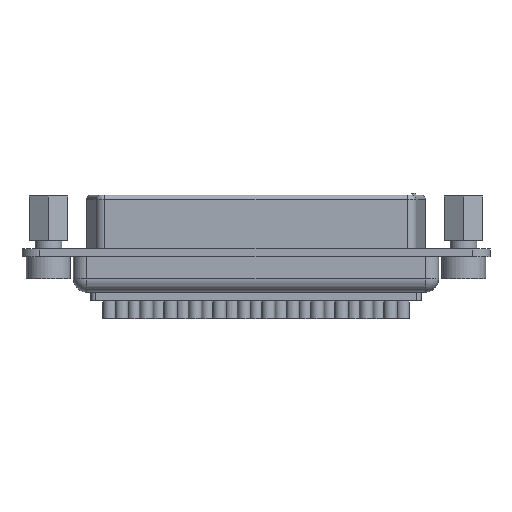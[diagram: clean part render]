
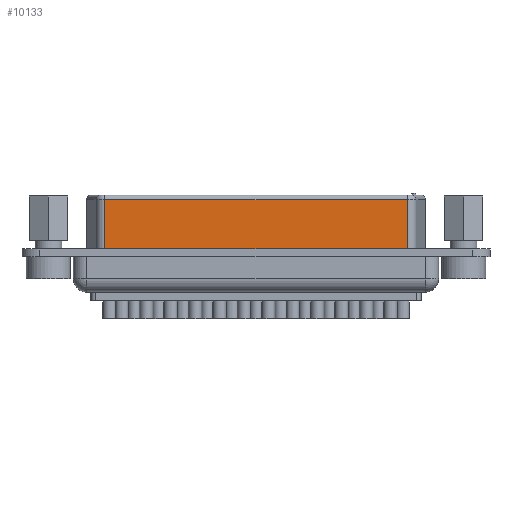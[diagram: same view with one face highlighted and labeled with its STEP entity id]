
A CAD part, front view. The second image highlights one B-rep face of the part: STEP entity #10133.
In plain terms, the highlighted planar face has unit normal (0, -1, 0).
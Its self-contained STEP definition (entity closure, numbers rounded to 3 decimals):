
#6219 = CARTESIAN_POINT ( 'NONE',  ( -17.142, -4., 0. ) ) ;
#6220 = DIRECTION ( 'NONE',  ( 1., 0., 0. ) ) ;
#6221 = VECTOR ( 'NONE', #6220, 1000. ) ;
#6222 = CARTESIAN_POINT ( 'NONE',  ( -17.142, -4., 0. ) ) ;
#6223 = LINE ( 'NONE', #6222, #6221 ) ;
#6224 = CARTESIAN_POINT ( 'NONE',  ( 17.142, -4., 0. ) ) ;
#6634 = CARTESIAN_POINT ( 'NONE',  ( 17.142, -4., 5.6 ) ) ;
#6635 = DIRECTION ( 'NONE',  ( 0., 0., -1. ) ) ;
#6636 = VECTOR ( 'NONE', #6635, 1000. ) ;
#6637 = CARTESIAN_POINT ( 'NONE',  ( 17.142, -4., 6.1 ) ) ;
#6638 = LINE ( 'NONE', #6637, #6636 ) ;
#6639 = DIRECTION ( 'NONE',  ( 0., 0., 1. ) ) ;
#6640 = DIRECTION ( 'NONE',  ( 0., 1., 0. ) ) ;
#6641 = CARTESIAN_POINT ( 'NONE',  ( -17.142, -4., 6.1 ) ) ;
#6642 = AXIS2_PLACEMENT_3D ( 'NONE', #6641, #6640, #6639 ) ;
#6643 = PLANE ( 'NONE',  #6642 ) ;
#6658 = FACE_OUTER_BOUND ( 'NONE', #10134, .T. ) ;
#6683 = DIRECTION ( 'NONE',  ( -1., 0., 0. ) ) ;
#6684 = VECTOR ( 'NONE', #6683, 1000. ) ;
#6685 = CARTESIAN_POINT ( 'NONE',  ( -17.142, -4., 5.6 ) ) ;
#6686 = LINE ( 'NONE', #6685, #6684 ) ;
#6739 = CARTESIAN_POINT ( 'NONE',  ( -17.142, -4., 5.6 ) ) ;
#6740 = DIRECTION ( 'NONE',  ( 0., 0., -1. ) ) ;
#6741 = VECTOR ( 'NONE', #6740, 1000. ) ;
#6742 = CARTESIAN_POINT ( 'NONE',  ( -17.142, -4., 6.1 ) ) ;
#6743 = LINE ( 'NONE', #6742, #6741 ) ;
#10003 = VERTEX_POINT ( 'NONE', #6224 ) ;
#10005 = EDGE_CURVE ( 'NONE', #10006, #10003, #6223, .T. ) ;
#10006 = VERTEX_POINT ( 'NONE', #6219 ) ;
#10133 = ADVANCED_FACE ( 'NONE', ( #6658 ), #6643, .F. ) ;
#10134 = EDGE_LOOP ( 'NONE', ( #10135, #10138, #10140, #10141 ) ) ;
#10135 = ORIENTED_EDGE ( 'NONE', *, *, #10136, .F. ) ;
#10136 = EDGE_CURVE ( 'NONE', #10137, #10003, #6638, .T. ) ;
#10137 = VERTEX_POINT ( 'NONE', #6634 ) ;
#10138 = ORIENTED_EDGE ( 'NONE', *, *, #10139, .T. ) ;
#10139 = EDGE_CURVE ( 'NONE', #10137, #10155, #6686, .T. ) ;
#10140 = ORIENTED_EDGE ( 'NONE', *, *, #10154, .T. ) ;
#10141 = ORIENTED_EDGE ( 'NONE', *, *, #10005, .T. ) ;
#10154 = EDGE_CURVE ( 'NONE', #10155, #10006, #6743, .T. ) ;
#10155 = VERTEX_POINT ( 'NONE', #6739 ) ;
